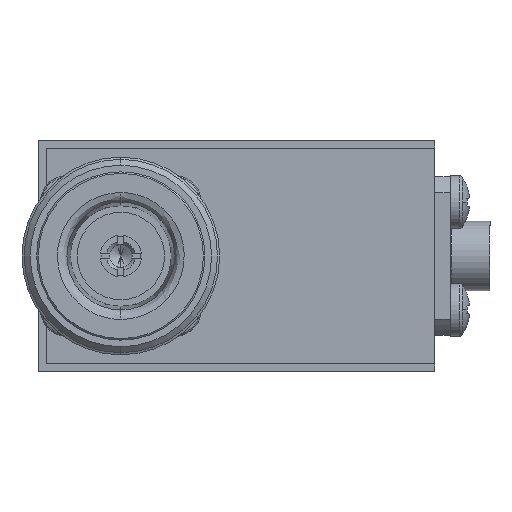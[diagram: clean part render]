
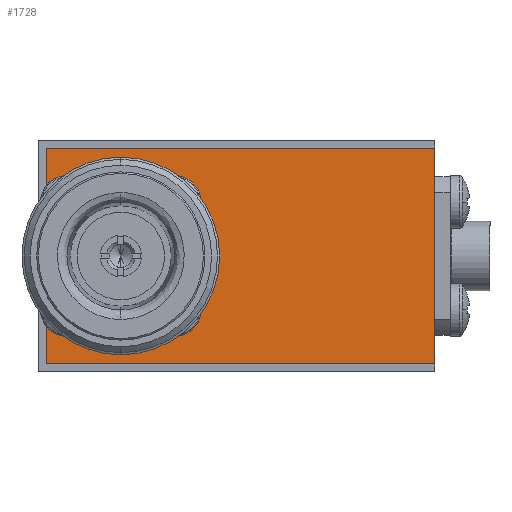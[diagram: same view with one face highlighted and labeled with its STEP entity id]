
A CAD part, left-side view. The second image highlights one B-rep face of the part: STEP entity #1728.
In plain terms, the highlighted planar face has unit normal (-1, 0, 0).
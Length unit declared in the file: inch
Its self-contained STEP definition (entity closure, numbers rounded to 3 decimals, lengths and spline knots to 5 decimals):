
#280 = VERTEX_POINT ( 'NONE', #5693 ) ;
#601 = LINE ( 'NONE', #812, #3134 ) ;
#803 = VERTEX_POINT ( 'NONE', #6024 ) ;
#812 = CARTESIAN_POINT ( 'NONE',  ( -0.46, 0.74469, 0.34 ) ) ;
#1090 = CARTESIAN_POINT ( 'NONE',  ( -0.46, 0.74469, 0.34 ) ) ;
#1324 = VERTEX_POINT ( 'NONE', #3003 ) ;
#1599 = EDGE_CURVE ( 'NONE', #2424, #803, #5842, .T. ) ;
#1728 = ADVANCED_FACE ( 'NONE', ( #6004 ), #4347, .F. ) ;
#1826 = LINE ( 'NONE', #1090, #4602 ) ;
#1840 = DIRECTION ( 'NONE',  ( 0., -1., 0. ) ) ;
#1925 = EDGE_LOOP ( 'NONE', ( #5148, #5237, #4518, #5641 ) ) ;
#2157 = EDGE_CURVE ( 'NONE', #1324, #280, #601, .T. ) ;
#2357 = DIRECTION ( 'NONE',  ( 0., 1., 0. ) ) ;
#2424 = VERTEX_POINT ( 'NONE', #4570 ) ;
#2682 = LINE ( 'NONE', #5637, #3775 ) ;
#2736 = VECTOR ( 'NONE', #4300, 39.37008 ) ;
#2856 = CARTESIAN_POINT ( 'NONE',  ( -0.46, 0.74469, -0.34 ) ) ;
#3003 = CARTESIAN_POINT ( 'NONE',  ( -0.46, 0.74469, 0.34 ) ) ;
#3134 = VECTOR ( 'NONE', #1840, 39.37008 ) ;
#3337 = EDGE_CURVE ( 'NONE', #1324, #2424, #1826, .T. ) ;
#3346 = CARTESIAN_POINT ( 'NONE',  ( -0.46, 0.74469, 0.34 ) ) ;
#3616 = EDGE_CURVE ( 'NONE', #280, #803, #2682, .T. ) ;
#3775 = VECTOR ( 'NONE', #6216, 39.37008 ) ;
#4300 = DIRECTION ( 'NONE',  ( 0., -1., 0. ) ) ;
#4347 = PLANE ( 'NONE',  #5288 ) ;
#4518 = ORIENTED_EDGE ( 'NONE', *, *, #2157, .F. ) ;
#4550 = DIRECTION ( 'NONE',  ( 0., 0., -1. ) ) ;
#4570 = CARTESIAN_POINT ( 'NONE',  ( -0.46, 0.74469, -0.34 ) ) ;
#4602 = VECTOR ( 'NONE', #4550, 39.37008 ) ;
#5148 = ORIENTED_EDGE ( 'NONE', *, *, #1599, .T. ) ;
#5237 = ORIENTED_EDGE ( 'NONE', *, *, #3616, .F. ) ;
#5288 = AXIS2_PLACEMENT_3D ( 'NONE', #3346, #5313, #2357 ) ;
#5313 = DIRECTION ( 'NONE',  ( 1., 0., 0. ) ) ;
#5637 = CARTESIAN_POINT ( 'NONE',  ( -0.46, -0.48031, 0.34 ) ) ;
#5641 = ORIENTED_EDGE ( 'NONE', *, *, #3337, .T. ) ;
#5693 = CARTESIAN_POINT ( 'NONE',  ( -0.46, -0.48031, 0.34 ) ) ;
#5842 = LINE ( 'NONE', #2856, #2736 ) ;
#6004 = FACE_OUTER_BOUND ( 'NONE', #1925, .T. ) ;
#6024 = CARTESIAN_POINT ( 'NONE',  ( -0.46, -0.48031, -0.34 ) ) ;
#6216 = DIRECTION ( 'NONE',  ( 0., 0., -1. ) ) ;
